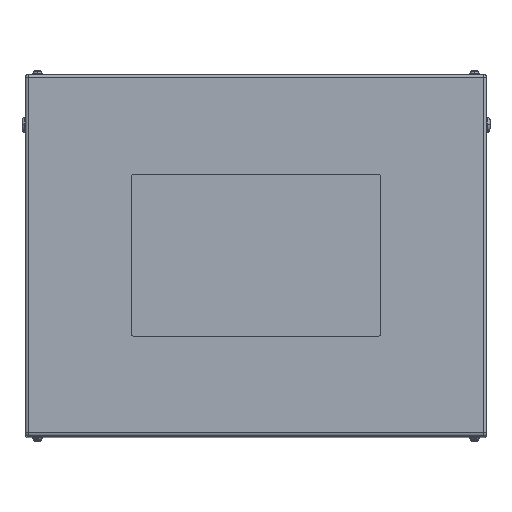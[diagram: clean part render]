
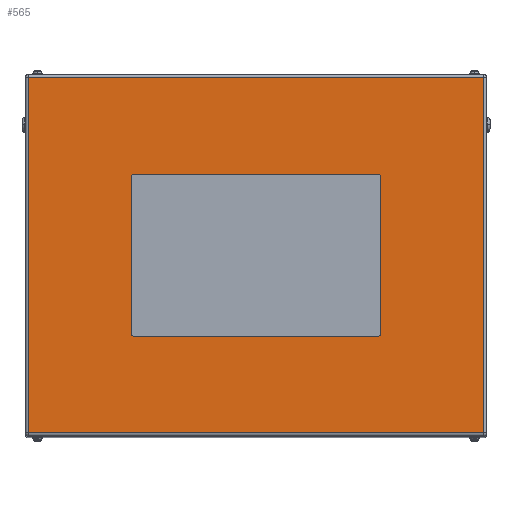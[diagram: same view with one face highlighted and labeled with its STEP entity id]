
A CAD part, top view. The second image highlights one B-rep face of the part: STEP entity #565.
In plain terms, the highlighted planar face has unit normal (0, 0, 1).
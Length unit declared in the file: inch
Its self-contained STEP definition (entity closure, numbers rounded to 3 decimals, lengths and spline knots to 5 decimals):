
#116 = PLANE ( 'NONE',  #4286 ) ;
#163 = AXIS2_PLACEMENT_3D ( 'NONE', #9842, #15598, #5473 ) ;
#312 = VECTOR ( 'NONE', #4957, 39.37008 ) ;
#326 = CARTESIAN_POINT ( 'NONE',  ( 18.5, 14.234, 33.5 ) ) ;
#348 = CARTESIAN_POINT ( 'NONE',  ( -9.75, -6.25, 33.5 ) ) ;
#565 = ADVANCED_FACE ( 'NONE', ( #15841, #1243 ), #116, .F. ) ;
#676 = CARTESIAN_POINT ( 'NONE',  ( 18.234, 14.5, 33.5 ) ) ;
#689 = ORIENTED_EDGE ( 'NONE', *, *, #3880, .F. ) ;
#1040 = CARTESIAN_POINT ( 'NONE',  ( -9.75, 6.5, 33.5 ) ) ;
#1243 = FACE_OUTER_BOUND ( 'NONE', #8501, .T. ) ;
#1480 = VERTEX_POINT ( 'NONE', #16118 ) ;
#1485 = EDGE_LOOP ( 'NONE', ( #15464, #2597, #4596, #3871, #9052, #689, #7383, #9817 ) ) ;
#1486 = CARTESIAN_POINT ( 'NONE',  ( -10., 6.25, 33.5 ) ) ;
#1561 = ORIENTED_EDGE ( 'NONE', *, *, #17306, .T. ) ;
#1590 = AXIS2_PLACEMENT_3D ( 'NONE', #2418, #13853, #8148 ) ;
#1910 = ORIENTED_EDGE ( 'NONE', *, *, #14765, .T. ) ;
#2043 = DIRECTION ( 'NONE',  ( -1., 0., 0. ) ) ;
#2199 = AXIS2_PLACEMENT_3D ( 'NONE', #348, #17734, #14565 ) ;
#2418 = CARTESIAN_POINT ( 'NONE',  ( 9.75, 6.25, 33.5 ) ) ;
#2594 = VECTOR ( 'NONE', #8704, 39.37008 ) ;
#2597 = ORIENTED_EDGE ( 'NONE', *, *, #3571, .F. ) ;
#2689 = VERTEX_POINT ( 'NONE', #11305 ) ;
#3328 = LINE ( 'NONE', #5590, #13390 ) ;
#3571 = EDGE_CURVE ( 'NONE', #7479, #6165, #6720, .T. ) ;
#3871 = ORIENTED_EDGE ( 'NONE', *, *, #16166, .F. ) ;
#3880 = EDGE_CURVE ( 'NONE', #7838, #12090, #9821, .T. ) ;
#4129 = LINE ( 'NONE', #15198, #312 ) ;
#4286 = AXIS2_PLACEMENT_3D ( 'NONE', #11835, #14773, #2043 ) ;
#4596 = ORIENTED_EDGE ( 'NONE', *, *, #12625, .F. ) ;
#4706 = CARTESIAN_POINT ( 'NONE',  ( -18.234, 14.234, 33.5 ) ) ;
#4836 = VERTEX_POINT ( 'NONE', #6758 ) ;
#4957 = DIRECTION ( 'NONE',  ( 1., 0., 0. ) ) ;
#5039 = CARTESIAN_POINT ( 'NONE',  ( 18.234, -14.234, 33.5 ) ) ;
#5043 = VERTEX_POINT ( 'NONE', #11649 ) ;
#5103 = CARTESIAN_POINT ( 'NONE',  ( -18.234, -14.234, 33.5 ) ) ;
#5299 = CARTESIAN_POINT ( 'NONE',  ( -18.234, 14.5, 33.5 ) ) ;
#5473 = DIRECTION ( 'NONE',  ( 1., 0., 0. ) ) ;
#5590 = CARTESIAN_POINT ( 'NONE',  ( 18.234, -14.234, 33.5 ) ) ;
#6165 = VERTEX_POINT ( 'NONE', #11915 ) ;
#6286 = ORIENTED_EDGE ( 'NONE', *, *, #11202, .T. ) ;
#6536 = EDGE_CURVE ( 'NONE', #4836, #1480, #12186, .T. ) ;
#6720 = CIRCLE ( 'NONE', #2199, 0.25 ) ;
#6758 = CARTESIAN_POINT ( 'NONE',  ( 9.75, -6.5, 33.5 ) ) ;
#6854 = VERTEX_POINT ( 'NONE', #5103 ) ;
#6927 = CARTESIAN_POINT ( 'NONE',  ( 9.75, -6.25, 33.5 ) ) ;
#7383 = ORIENTED_EDGE ( 'NONE', *, *, #13219, .F. ) ;
#7479 = VERTEX_POINT ( 'NONE', #12556 ) ;
#7621 = LINE ( 'NONE', #10268, #16918 ) ;
#7664 = ORIENTED_EDGE ( 'NONE', *, *, #11292, .T. ) ;
#7838 = VERTEX_POINT ( 'NONE', #12171 ) ;
#8148 = DIRECTION ( 'NONE',  ( -1., 0., 0. ) ) ;
#8501 = EDGE_LOOP ( 'NONE', ( #6286, #7664, #1910, #1561 ) ) ;
#8704 = DIRECTION ( 'NONE',  ( 0., -1., 0. ) ) ;
#8892 = AXIS2_PLACEMENT_3D ( 'NONE', #6927, #17052, #15913 ) ;
#9052 = ORIENTED_EDGE ( 'NONE', *, *, #10634, .F. ) ;
#9140 = VERTEX_POINT ( 'NONE', #13076 ) ;
#9347 = DIRECTION ( 'NONE',  ( 0., 1., 0. ) ) ;
#9817 = ORIENTED_EDGE ( 'NONE', *, *, #6536, .F. ) ;
#9821 = CIRCLE ( 'NONE', #1590, 0.25 ) ;
#9842 = CARTESIAN_POINT ( 'NONE',  ( -9.75, 6.25, 33.5 ) ) ;
#9845 = DIRECTION ( 'NONE',  ( 1., 0., 0. ) ) ;
#10268 = CARTESIAN_POINT ( 'NONE',  ( 10., 6.25, 33.5 ) ) ;
#10634 = EDGE_CURVE ( 'NONE', #12090, #9140, #15960, .T. ) ;
#11202 = EDGE_CURVE ( 'NONE', #14650, #6854, #12725, .T. ) ;
#11275 = VECTOR ( 'NONE', #9347, 39.37008 ) ;
#11292 = EDGE_CURVE ( 'NONE', #6854, #12896, #3328, .T. ) ;
#11305 = CARTESIAN_POINT ( 'NONE',  ( 18.234, 14.234, 33.5 ) ) ;
#11335 = LINE ( 'NONE', #326, #13347 ) ;
#11649 = CARTESIAN_POINT ( 'NONE',  ( -10., 6.25, 33.5 ) ) ;
#11835 = CARTESIAN_POINT ( 'NONE',  ( 18.5, 14.5, 33.5 ) ) ;
#11915 = CARTESIAN_POINT ( 'NONE',  ( -9.75, -6.5, 33.5 ) ) ;
#12078 = VECTOR ( 'NONE', #12528, 39.37008 ) ;
#12090 = VERTEX_POINT ( 'NONE', #13026 ) ;
#12171 = CARTESIAN_POINT ( 'NONE',  ( 10., 6.25, 33.5 ) ) ;
#12186 = CIRCLE ( 'NONE', #8892, 0.25 ) ;
#12285 = VECTOR ( 'NONE', #15474, 39.37008 ) ;
#12528 = DIRECTION ( 'NONE',  ( -1., 0., 0. ) ) ;
#12556 = CARTESIAN_POINT ( 'NONE',  ( -10., -6.25, 33.5 ) ) ;
#12625 = EDGE_CURVE ( 'NONE', #5043, #7479, #18340, .T. ) ;
#12725 = LINE ( 'NONE', #5299, #12285 ) ;
#12896 = VERTEX_POINT ( 'NONE', #5039 ) ;
#13026 = CARTESIAN_POINT ( 'NONE',  ( 9.75, 6.5, 33.5 ) ) ;
#13076 = CARTESIAN_POINT ( 'NONE',  ( -9.75, 6.5, 33.5 ) ) ;
#13219 = EDGE_CURVE ( 'NONE', #1480, #7838, #7621, .T. ) ;
#13347 = VECTOR ( 'NONE', #17468, 39.37008 ) ;
#13390 = VECTOR ( 'NONE', #9845, 39.37008 ) ;
#13666 = CIRCLE ( 'NONE', #163, 0.25 ) ;
#13853 = DIRECTION ( 'NONE',  ( 0., 0., 1. ) ) ;
#13977 = LINE ( 'NONE', #676, #11275 ) ;
#14565 = DIRECTION ( 'NONE',  ( 1., 0., 0. ) ) ;
#14650 = VERTEX_POINT ( 'NONE', #4706 ) ;
#14765 = EDGE_CURVE ( 'NONE', #12896, #2689, #13977, .T. ) ;
#14773 = DIRECTION ( 'NONE',  ( 0., 0., -1. ) ) ;
#14813 = EDGE_CURVE ( 'NONE', #6165, #4836, #4129, .T. ) ;
#15198 = CARTESIAN_POINT ( 'NONE',  ( -9.75, -6.5, 33.5 ) ) ;
#15464 = ORIENTED_EDGE ( 'NONE', *, *, #14813, .F. ) ;
#15474 = DIRECTION ( 'NONE',  ( 0., -1., 0. ) ) ;
#15598 = DIRECTION ( 'NONE',  ( 0., 0., 1. ) ) ;
#15841 = FACE_BOUND ( 'NONE', #1485, .T. ) ;
#15891 = DIRECTION ( 'NONE',  ( 0., 1., 0. ) ) ;
#15913 = DIRECTION ( 'NONE',  ( 1., 0., 0. ) ) ;
#15960 = LINE ( 'NONE', #1040, #12078 ) ;
#16118 = CARTESIAN_POINT ( 'NONE',  ( 10., -6.25, 33.5 ) ) ;
#16166 = EDGE_CURVE ( 'NONE', #9140, #5043, #13666, .T. ) ;
#16918 = VECTOR ( 'NONE', #15891, 39.37008 ) ;
#17052 = DIRECTION ( 'NONE',  ( 0., 0., 1. ) ) ;
#17306 = EDGE_CURVE ( 'NONE', #2689, #14650, #11335, .T. ) ;
#17468 = DIRECTION ( 'NONE',  ( -1., 0., 0. ) ) ;
#17734 = DIRECTION ( 'NONE',  ( 0., 0., 1. ) ) ;
#18340 = LINE ( 'NONE', #1486, #2594 ) ;
